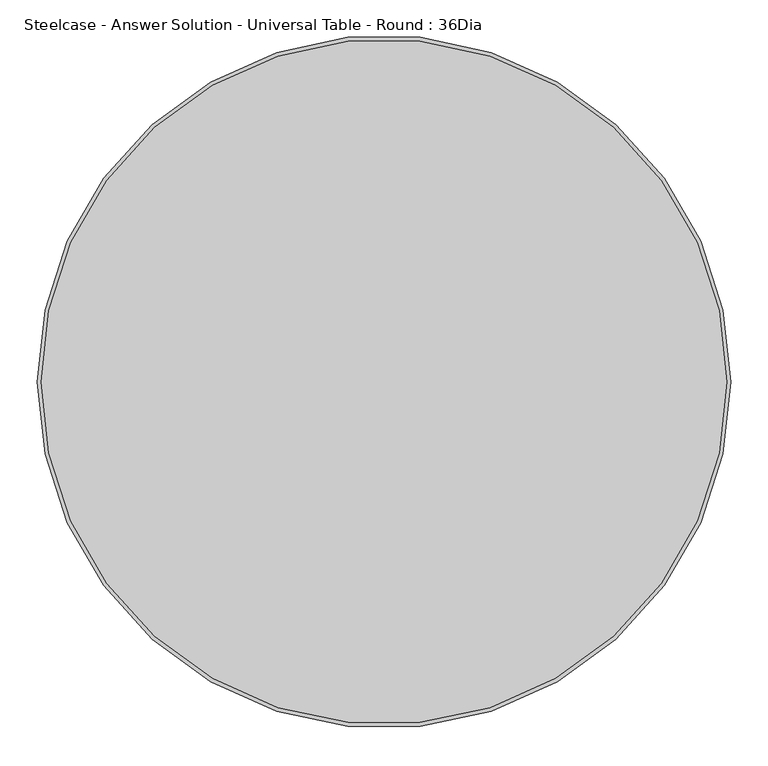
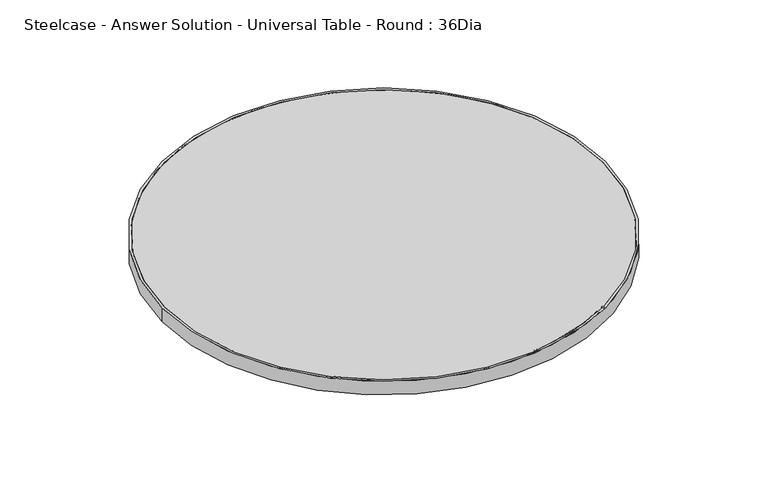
"""IFC4 building model written with IfcOpenShell, lengths in millimetres: furniture geometry, Steelcase - Answer Solution - Universal Table - Round : 36Dia."""

from ifc_helpers import new_model, si_unit, point, frame, origin, origin_2d, place, context, project, spatial, circle_curve, trimmed, segment, composite_curve, outline, extrude, source, transform, mapped, element, save


def steelcase_answer_solution_universal_table_round_36dia_8c53d9f9(model_context):
    return source(origin(), model_context, "Body", "SweptSolid", [
        extrude(outline(composite_curve([segment(trimmed(circle_curve(origin_2d(), 462.28), [point((-462.28, 0.0))], [point((462.28, 0.0))], False, "CARTESIAN"), True, "CONTINUOUS"), segment(trimmed(circle_curve(origin_2d(), 462.28), [point((462.28, 0.0))], [point((-462.28, 0.0))], False, "CARTESIAN"), True, "CONTINUOUS")], self_intersect=False), holes=[composite_curve([segment(trimmed(circle_curve(origin_2d(), 457.2), [point((457.2, 0.0))], [point((-457.2, 0.0))], True, "CARTESIAN"), True, "CONTINUOUS"), segment(trimmed(circle_curve(origin_2d(), 457.2), [point((-457.2, 0.0))], [point((457.2, 0.0))], True, "CARTESIAN"), True, "CONTINUOUS")], self_intersect=False)]), frame((0.0, 0.0, 668.274), z_axis=(0.0, 0.0, 1.0), x_axis=(1.0, 0.0, 0.0)), (0.0, 0.0, 1.0), 30.0990349),
        extrude(outline(composite_curve([segment(trimmed(circle_curve(origin_2d(), 457.2), [point((-457.2, 0.0))], [point((457.2, 0.0))], False, "CARTESIAN"), True, "CONTINUOUS"), segment(trimmed(circle_curve(origin_2d(), 457.2), [point((457.2, 0.0))], [point((-457.2, 0.0))], False, "CARTESIAN"), True, "CONTINUOUS")], self_intersect=False)), frame((0.0, 0.0, 668.274), z_axis=(0.0, 0.0, 1.0), x_axis=(1.0, 0.0, 0.0)), (0.0, 0.0, 1.0), 30.0990349),
    ])


if __name__ == "__main__":
    model = new_model("IFC4")
    model_context = context("Model", 3, world=origin())
    ifc_project = project(units=[si_unit("LENGTHUNIT", "METRE", prefix="MILLI")], contexts=[model_context])
    site = spatial("IfcSite", under=ifc_project)
    building = spatial("IfcBuilding", under=site)
    placement = place(None, origin())
    steelcase_answer_solution_universal_table_round_36dia_shape = steelcase_answer_solution_universal_table_round_36dia_8c53d9f9(model_context)
    element("IfcFurniture", 1, ObjectType="Steelcase - Answer Solution - Universal Table - Round : 36Dia", at=placement, inside=building, context=model_context, shape_type="MappedRepresentation", body=[
        mapped(steelcase_answer_solution_universal_table_round_36dia_shape, transform((0.0, 0.0, 0.0), x_axis=(1.0, 0.0, 0.0), y_axis=(0.0, 1.0, 0.0), z_axis=(0.0, 0.0, 1.0))),
    ])
    save(model, "model.ifc")
